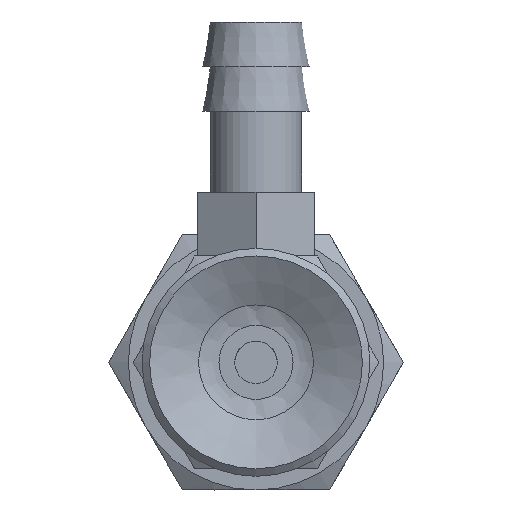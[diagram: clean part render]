
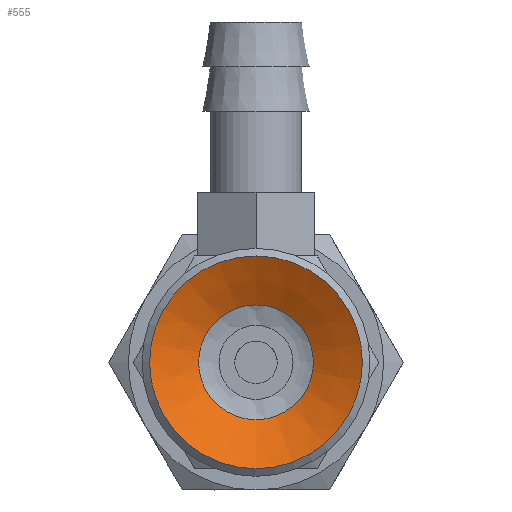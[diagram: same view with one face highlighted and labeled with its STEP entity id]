
A CAD part, front view. The second image highlights one B-rep face of the part: STEP entity #555.
In plain terms, the highlighted conical face has half-angle 61.39 degrees and reference radius 2.25 mm.
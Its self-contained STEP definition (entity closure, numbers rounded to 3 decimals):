
#555=ADVANCED_FACE('',(#831,#832),#833,.F.);
#831=FACE_BOUND('',#1148,.T.);
#832=FACE_OUTER_BOUND('',#1149,.T.);
#833=CONICAL_SURFACE('',#1150,2.25,1.071);
#1148=EDGE_LOOP('',(#1890));
#1149=EDGE_LOOP('',(#1891));
#1150=AXIS2_PLACEMENT_3D('',#1892,#1893,#1894);
#1890=ORIENTED_EDGE('',*,*,#2205,.T.);
#1891=ORIENTED_EDGE('',*,*,#2198,.T.);
#1892=CARTESIAN_POINT('',(0.0,1.5,0.0));
#1893=DIRECTION('',(-0.0,-1.0,0.));
#1894=DIRECTION('',(0.0,0.,-1.0));
#2198=EDGE_CURVE('',#2523,#2523,#2524,.T.);
#2205=EDGE_CURVE('',#2537,#2537,#2538,.T.);
#2523=VERTEX_POINT('',#3267);
#2524=CIRCLE('',#3268,5.);
#2537=VERTEX_POINT('',#3281);
#2538=CIRCLE('',#3282,2.698);
#3267=CARTESIAN_POINT('',(0.0,0.,-5.));
#3268=AXIS2_PLACEMENT_3D('',#3618,#3619,#3620);
#3281=CARTESIAN_POINT('',(0.0,1.256,-2.698));
#3282=AXIS2_PLACEMENT_3D('',#3639,#3640,#3641);
#3618=CARTESIAN_POINT('',(0.0,0.0,0.0));
#3619=DIRECTION('',(0.0,-1.0,0.));
#3620=DIRECTION('',(0.0,0.,-1.0));
#3639=CARTESIAN_POINT('',(0.0,1.256,0.0));
#3640=DIRECTION('',(0.0,1.0,0.));
#3641=DIRECTION('',(0.0,0.,-1.0));
